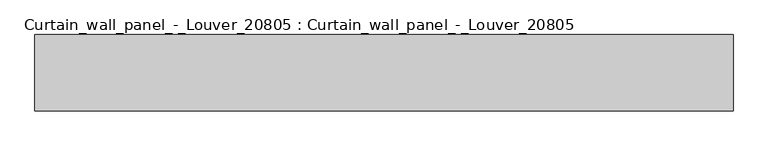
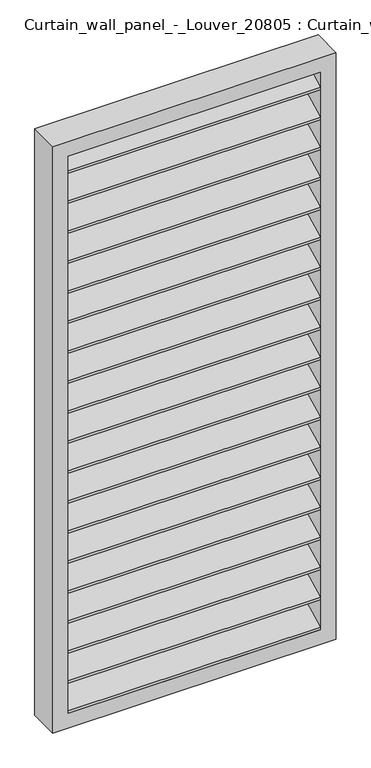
"""IFC4 building model written with IfcOpenShell, lengths in millimetres: plate geometry, Curtain_wall_panel_-_Louver_20805 : Curtain_wall_panel_-_Louver_20805."""

import ifcopenshell
import ifcopenshell.guid

model = None  # the IFC model being written
_history = None  # IfcOwnerHistory: only IFC2X3 demands one
_inside = {}  # id of a spatial element -> (the spatial element, [elements in it])
_under = {}  # id of a project, library or spatial element -> (it, [spatial elements below it])
_declared = {}  # id of a project -> (the project, [libraries it declares])
_typed = {}  # id of a type object -> (the type object, [elements of that type])
_made_of = {}  # id of a material, layer set ... -> (it, [elements and type objects made of it])


def new_model(schema):
    """Start an empty IFC model of exactly this schema.

    Asked for "IFC4X3", IfcOpenShell would pick the latest addendum, in which some entities
    have other attributes; the version numbers below select the first issue.
    IFC2X3 requires an IfcOwnerHistory on every rooted entity: one is made here for all.
    """
    global model, _history
    if schema == "IFC4X3":
        model = ifcopenshell.file(schema_version=(4, 3, 0, 0))
    else:
        model = ifcopenshell.file(schema=schema)
    _inside.clear()
    _under.clear()
    _declared.clear()
    _typed.clear()
    _made_of.clear()
    _history = None
    if model.schema == "IFC2X3":
        org = make("IfcOrganization", Name="unknown")
        user = make(
            "IfcPersonAndOrganization",
            ThePerson=make("IfcPerson", FamilyName="unknown"),
            TheOrganization=org,
        )
        app = make(
            "IfcApplication",
            ApplicationDeveloper=org,
            Version="unknown",
            ApplicationFullName="unknown",
            ApplicationIdentifier="unknown",
        )
        _history = make(
            "IfcOwnerHistory",
            OwningUser=user,
            OwningApplication=app,
            ChangeAction="ADDED",
            CreationDate=0,
        )
    return model


def make(cls, **values):
    """One entity of the class cls with the attributes given. An attribute that is None is left unset."""
    return model.create_entity(
        cls, **{name: value for name, value in values.items() if value is not None}
    )


def rooted(cls, **values):
    """An entity with a GlobalId (a new one), such as an element, a storey or a relation."""
    return make(cls, GlobalId=ifcopenshell.guid.new(), OwnerHistory=_history, **values)


def si_unit(unit_type, name, prefix=None):
    """IfcSIUnit, for example si_unit("LENGTHUNIT", "METRE", prefix="MILLI")."""
    return make("IfcSIUnit", UnitType=unit_type, Prefix=prefix, Name=name)


def assignment(units):
    """IfcUnitAssignment: the units of a project."""
    return None if units is None else make("IfcUnitAssignment", Units=units)


def point(xyz):
    """IfcCartesianPoint."""
    return None if xyz is None else make("IfcCartesianPoint", Coordinates=xyz)


def direction(xyz):
    """IfcDirection."""
    return None if xyz is None else make("IfcDirection", DirectionRatios=xyz)


def frame(location, z_axis=None, x_axis=None):
    """IfcAxis2Placement3D, a coordinate frame: its origin and axes. An axis left out is left unset."""
    return make(
        "IfcAxis2Placement3D",
        Location=point(location),
        Axis=direction(z_axis),
        RefDirection=direction(x_axis),
    )


def origin():
    """The frame at (0, 0, 0) with its axes left unset."""
    return frame((0.0, 0.0, 0.0))


def place(relative_to, where):
    """IfcLocalPlacement: puts the frame where relative to a parent placement (None: the world)."""
    return make(
        "IfcLocalPlacement", PlacementRelTo=relative_to, RelativePlacement=where
    )


def context(
    kind, dimensions, precision=None, world=None, true_north=None, identifier=None
):
    """IfcGeometricRepresentationContext, for example the 3D "Model" context."""
    return make(
        "IfcGeometricRepresentationContext",
        ContextIdentifier=identifier,
        ContextType=kind,
        CoordinateSpaceDimension=dimensions,
        Precision=precision,
        WorldCoordinateSystem=world,
        TrueNorth=true_north,
    )


def project(units=None, contexts=None):
    """IfcProject with its units and contexts."""
    return rooted(
        "IfcProject",
        Name="project",
        RepresentationContexts=contexts,
        UnitsInContext=assignment(units),
    )


def spatial(cls, under=None, at=None, **own):
    """A site, building, storey or space (cls), placed at a placement, below another one or the project."""
    s = rooted(cls, ObjectPlacement=at, **own)
    if under is not None:
        _under.setdefault(under.id(), (under, []))[1].append(s)
    return s


def polyline(points):
    """IfcPolyline through the points."""
    return make("IfcPolyline", Points=[point(p) for p in points])


def outline(outer, holes=None, kind="AREA"):
    """IfcArbitraryClosedProfileDef: a profile drawn as a closed curve; with holes, ...WithVoids."""
    if holes is None:
        return make("IfcArbitraryClosedProfileDef", ProfileType=kind, OuterCurve=outer)
    return make(
        "IfcArbitraryProfileDefWithVoids",
        ProfileType=kind,
        OuterCurve=outer,
        InnerCurves=holes,
    )


def extrude(swept, where, along, depth):
    """IfcExtrudedAreaSolid: the profile swept, set in the frame where, extruded along a direction by depth."""
    return make(
        "IfcExtrudedAreaSolid",
        SweptArea=swept,
        Position=where,
        ExtrudedDirection=direction(along),
        Depth=depth,
    )


def shape(context_of_items, identifier, shape_type, items):
    """IfcShapeRepresentation: the items that make up one representation, for example the "Body"."""
    return make(
        "IfcShapeRepresentation",
        ContextOfItems=context_of_items,
        RepresentationIdentifier=identifier,
        RepresentationType=shape_type,
        Items=items,
    )


def source(mapping_origin, context_of_items, identifier, shape_type, items):
    """IfcRepresentationMap: a shape defined once, which mapped items show again and again."""
    return make(
        "IfcRepresentationMap",
        MappingOrigin=mapping_origin,
        MappedRepresentation=shape(context_of_items, identifier, shape_type, items),
    )


def transform(
    local_origin,
    x_axis=None,
    y_axis=None,
    z_axis=None,
    scale=None,
    scale2=None,
    scale3=None,
    uniform=True,
):
    """IfcCartesianTransformationOperator3D, or its non-uniform kind. x_axis, y_axis, z_axis: its Axis1, 2, 3."""
    if uniform:
        return make(
            "IfcCartesianTransformationOperator3D",
            Axis1=direction(x_axis),
            Axis2=direction(y_axis),
            LocalOrigin=point(local_origin),
            Scale=scale,
            Axis3=direction(z_axis),
        )
    return make(
        "IfcCartesianTransformationOperator3DnonUniform",
        Axis1=direction(x_axis),
        Axis2=direction(y_axis),
        LocalOrigin=point(local_origin),
        Scale=scale,
        Axis3=direction(z_axis),
        Scale2=scale2,
        Scale3=scale3,
    )


def mapped(mapping_source, mapping_target):
    """IfcMappedItem: shows the shape of a source again, moved by a transform."""
    return make(
        "IfcMappedItem", MappingSource=mapping_source, MappingTarget=mapping_target
    )


def made_of(thing, what):
    """Note that an element or type object is made of a material, layer set ...; save() writes the relation."""
    if what is not None:
        _made_of.setdefault(what.id(), (what, []))[1].append(thing)
    return thing


def element(
    cls,
    number,
    at=None,
    inside=None,
    cuts=None,
    type_object=None,
    material=None,
    context=None,
    identifier="Body",
    shape_type=None,
    held_by="IfcProductDefinitionShape",
    body=None,
    shapes=None,
    **own,
):
    """One element of the class cls, such as IfcWall. Its Tag is "e" and its number.

    at: its placement. inside: the storey or other place that contains it. cuts: it is an
    opening in that element (IfcRelVoidsElement). A single representation is given by context,
    identifier, shape_type and body (its items); several are given by shapes. held_by: the class
    of the entity that holds the representations. save() writes the other relations.
    """
    e = rooted(cls, Tag="e%d" % number, ObjectPlacement=at, **own)
    if body is not None:
        shapes = [shape(context, identifier, shape_type, body)]
    if shapes is not None:
        e.Representation = make(held_by, Representations=shapes)
    if inside is not None:
        _inside.setdefault(inside.id(), (inside, []))[1].append(e)
    if cuts is not None:
        rooted(
            "IfcRelVoidsElement", RelatingBuildingElement=cuts, RelatedOpeningElement=e
        )
    if type_object is not None:
        _typed.setdefault(type_object.id(), (type_object, []))[1].append(e)
    return made_of(e, material)


def aggregate(whole, parts):
    """IfcRelAggregates: a whole, such as a stair, and the parts it consists of."""
    return rooted("IfcRelAggregates", RelatingObject=whole, RelatedObjects=parts)


def save(model, path):
    """Write the relations noted so far, then the file.

    IfcRelAggregates (storeys below a building ...), IfcRelContainedInSpatialStructure (elements
    in a storey), IfcRelDefinesByType, IfcRelAssociatesMaterial and IfcRelDeclares: one each for
    every whole, place, type object, material and project.
    """
    for whole, parts in _under.values():
        aggregate(whole, parts)
    for where, things in _inside.values():
        rooted(
            "IfcRelContainedInSpatialStructure",
            RelatedElements=things,
            RelatingStructure=where,
        )
    for kind, things in _typed.values():
        rooted("IfcRelDefinesByType", RelatedObjects=things, RelatingType=kind)
    for what, things in _made_of.values():
        rooted("IfcRelAssociatesMaterial", RelatedObjects=things, RelatingMaterial=what)
    for by, libraries in _declared.values():
        rooted("IfcRelDeclares", RelatingContext=by, RelatedDefinitions=libraries)
    model.write(path)


def curtain_wall_panel_louver_20805_curtain_wall_panel_louver_34a23a9e(model_context):
    return source(origin(), model_context, "Body", "SweptSolid", [
        extrude(outline(polyline([(200.0, 3678.5908966), (0.0, 3579.2058986), (0.0, 3595.9558314), (200.0, 3695.3408295), (200.0, 3678.5908966)])), frame((-815.0000002, 0.0, 0.0), z_axis=(1.0, 0.0, 0.0), x_axis=(0.0, 1.0, 0.0)), (0.0, 0.0, 1.0), 1630.0000003),
        extrude(outline(polyline([(200.0, 3473.9317261), (0.0, 3374.546728), (0.0, 3391.2966609), (200.0, 3490.681659), (200.0, 3473.9317261)])), frame((-815.0000002, 0.0, 0.0), z_axis=(1.0, 0.0, 0.0), x_axis=(0.0, 1.0, 0.0)), (0.0, 0.0, 1.0), 1630.0000003),
        extrude(outline(polyline([(200.0, 3269.2725556), (0.0, 3169.8875575), (0.0, 3186.6374904), (200.0, 3286.0224885), (200.0, 3269.2725556)])), frame((-815.0000002, 0.0, 0.0), z_axis=(1.0, 0.0, 0.0), x_axis=(0.0, 1.0, 0.0)), (0.0, 0.0, 1.0), 1630.0000003),
        extrude(outline(polyline([(200.0, 3064.6133851), (0.0, 2965.228387), (0.0, 2981.9783199), (200.0, 3081.363318), (200.0, 3064.6133851)])), frame((-815.0000002, 0.0, 0.0), z_axis=(1.0, 0.0, 0.0), x_axis=(0.0, 1.0, 0.0)), (0.0, 0.0, 1.0), 1630.0000003),
        extrude(outline(polyline([(200.0, 2859.9542146), (0.0, 2760.5692165), (0.0, 2777.3191494), (200.0, 2876.7041475), (200.0, 2859.9542146)])), frame((-815.0000002, 0.0, 0.0), z_axis=(1.0, 0.0, 0.0), x_axis=(0.0, 1.0, 0.0)), (0.0, 0.0, 1.0), 1630.0000003),
        extrude(outline(polyline([(200.0, 2655.2950441), (0.0, 2555.910046), (0.0, 2572.6599789), (200.0, 2672.044977), (200.0, 2655.2950441)])), frame((-815.0000002, 0.0, 0.0), z_axis=(1.0, 0.0, 0.0), x_axis=(0.0, 1.0, 0.0)), (0.0, 0.0, 1.0), 1630.0000003),
        extrude(outline(polyline([(200.0, 2450.6358736), (0.0, 2351.2508755), (0.0, 2368.0008084), (200.0, 2467.3858065), (200.0, 2450.6358736)])), frame((-815.0000002, 0.0, 0.0), z_axis=(1.0, 0.0, 0.0), x_axis=(0.0, 1.0, 0.0)), (0.0, 0.0, 1.0), 1630.0000003),
        extrude(outline(polyline([(200.0, 2245.9767031), (0.0, 2146.591705), (0.0, 2163.3416379), (200.0, 2262.726636), (200.0, 2245.9767031)])), frame((-815.0000002, 0.0, 0.0), z_axis=(1.0, 0.0, 0.0), x_axis=(0.0, 1.0, 0.0)), (0.0, 0.0, 1.0), 1630.0000003),
        extrude(outline(polyline([(200.0, 2041.3175326), (0.0, 1941.9325345), (0.0, 1958.6824674), (200.0, 2058.0674655), (200.0, 2041.3175326)])), frame((-815.0000002, 0.0, 0.0), z_axis=(1.0, 0.0, 0.0), x_axis=(0.0, 1.0, 0.0)), (0.0, 0.0, 1.0), 1630.0000003),
        extrude(outline(polyline([(200.0, 1836.6583621), (0.0, 1737.273364), (0.0, 1754.0232969), (200.0, 1853.408295), (200.0, 1836.6583621)])), frame((-815.0000002, 0.0, 0.0), z_axis=(1.0, 0.0, 0.0), x_axis=(0.0, 1.0, 0.0)), (0.0, 0.0, 1.0), 1630.0000003),
        extrude(outline(polyline([(200.0, 1631.9991916), (0.0, 1532.6141935), (0.0, 1549.3641264), (200.0, 1648.7491245), (200.0, 1631.9991916)])), frame((-815.0000002, 0.0, 0.0), z_axis=(1.0, 0.0, 0.0), x_axis=(0.0, 1.0, 0.0)), (0.0, 0.0, 1.0), 1630.0000003),
        extrude(outline(polyline([(200.0, 1427.3400211), (0.0, 1327.955023), (0.0, 1344.7049559), (200.0, 1444.089954), (200.0, 1427.3400211)])), frame((-815.0000002, 0.0, 0.0), z_axis=(1.0, 0.0, 0.0), x_axis=(0.0, 1.0, 0.0)), (0.0, 0.0, 1.0), 1630.0000003),
        extrude(outline(polyline([(200.0, 1222.6808506), (0.0, 1123.2958525), (0.0, 1140.0457854), (200.0, 1239.4307835), (200.0, 1222.6808506)])), frame((-815.0000002, 0.0, 0.0), z_axis=(1.0, 0.0, 0.0), x_axis=(0.0, 1.0, 0.0)), (0.0, 0.0, 1.0), 1630.0000003),
        extrude(outline(polyline([(200.0, 1018.0216801), (0.0, 918.636682), (0.0, 935.3866149), (200.0, 1034.771613), (200.0, 1018.0216801)])), frame((-815.0000002, 0.0, 0.0), z_axis=(1.0, 0.0, 0.0), x_axis=(0.0, 1.0, 0.0)), (0.0, 0.0, 1.0), 1630.0000003),
        extrude(outline(polyline([(200.0, 813.3625096), (0.0, 713.9775115), (0.0, 730.7274444), (200.0, 830.1124425), (200.0, 813.3625096)])), frame((-815.0000002, 0.0, 0.0), z_axis=(1.0, 0.0, 0.0), x_axis=(0.0, 1.0, 0.0)), (0.0, 0.0, 1.0), 1630.0000003),
        extrude(outline(polyline([(200.0, 608.7033391), (0.0, 509.318341), (0.0, 526.0682739), (200.0, 625.453272), (200.0, 608.7033391)])), frame((-815.0000002, 0.0, 0.0), z_axis=(1.0, 0.0, 0.0), x_axis=(0.0, 1.0, 0.0)), (0.0, 0.0, 1.0), 1630.0000003),
        extrude(outline(polyline([(200.0, 404.0441686), (0.0, 304.6591705), (0.0, 321.4091034), (200.0, 420.7941014), (200.0, 404.0441686)])), frame((-815.0000002, 0.0, 0.0), z_axis=(1.0, 0.0, 0.0), x_axis=(0.0, 1.0, 0.0)), (0.0, 0.0, 1.0), 1630.0000003),
        extrude(outline(polyline([(200.0, 3883.2500672), (0.0, 3783.8650691), (0.0, 3800.6150019), (200.0, 3900.0), (200.0, 3883.2500672)])), frame((-815.0000002, 0.0, 0.0), z_axis=(1.0, 0.0, 0.0), x_axis=(0.0, 1.0, 0.0)), (0.0, 0.0, 1.0), 1630.0000003),
        extrude(outline(polyline([(200.0, 199.3849981), (0.0, 100.0), (0.0, 116.7499328), (200.0, 216.1349309), (200.0, 199.3849981)])), frame((-815.0000002, 0.0, 0.0), z_axis=(1.0, 0.0, 0.0), x_axis=(0.0, 1.0, 0.0)), (0.0, 0.0, 1.0), 1630.0000003),
        extrude(outline(polyline([(4000.0, -915.0000002), (0.0, -915.0000002), (0.0, 915.0000002), (4000.0, 915.0000002), (4000.0, -915.0000002)]), holes=[polyline([(3900.0, -815.0000002), (3900.0, 815.0000002), (100.0, 815.0000002), (100.0, -815.0000002), (3900.0, -815.0000002)])]), frame((0.0, 0.0, 0.0), z_axis=(0.0, 1.0, 0.0), x_axis=(0.0, 0.0, 1.0)), (0.0, 0.0, 1.0), 200.0),
    ])


if __name__ == "__main__":
    model = new_model("IFC4")
    model_context = context("Model", 3, world=origin())
    ifc_project = project(units=[si_unit("LENGTHUNIT", "METRE", prefix="MILLI")], contexts=[model_context])
    site = spatial("IfcSite", under=ifc_project)
    building = spatial("IfcBuilding", under=site)
    placement = place(None, origin())
    curtain_wall_panel_louver_20805_curtain_wall_panel_louver_shape = curtain_wall_panel_louver_20805_curtain_wall_panel_louver_34a23a9e(model_context)
    element("IfcPlate", 1, ObjectType="Curtain_wall_panel_-_Louver_20805 : Curtain_wall_panel_-_Louver_20805", at=placement, inside=building, context=model_context, shape_type="MappedRepresentation", body=[
        mapped(curtain_wall_panel_louver_20805_curtain_wall_panel_louver_shape, transform((0.0, 0.0, 0.0), x_axis=(1.0, 0.0, 0.0), y_axis=(0.0, 1.0, 0.0), z_axis=(0.0, 0.0, 1.0))),
    ])
    save(model, "model.ifc")
